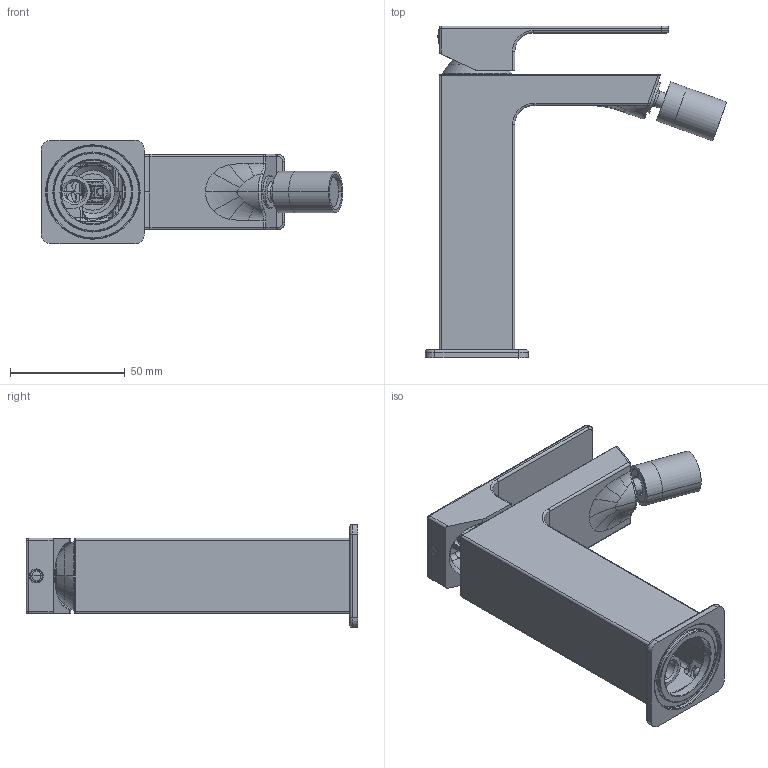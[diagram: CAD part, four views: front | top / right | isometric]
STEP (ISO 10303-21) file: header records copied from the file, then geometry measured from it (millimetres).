
FILE_DESCRIPTION((''),'2;1');
FILE_NAME('DIS_3D_F008WU_ASM','2022-03-30T15:53:04',('Luca'),(''),'CREO PARAMETRIC BY PTC INC, 2020281','CREO PARAMETRIC BY PTC INC, 2020281','');
FILE_SCHEMA(('AUTOMOTIVE_DESIGN { 1 0 10303 214 1 1 1 1 }'));
Products named in the file (11): LABEL-1921; LABEL-5679; LABEL-10408; LABEL-12613; LABEL-14613; LABEL-15175; LABEL-15965; LABEL-17037; LABEL-47210; TOP_ASM; DIS_3D_F008WU_ASM
Assembly tree (10 placements, depth 3):
  DIS_3D_F008WU_ASM
    TOP_ASM
      LABEL-1921
      LABEL-5679
      LABEL-10408
      LABEL-12613
      LABEL-14613
      LABEL-15175
      LABEL-15965
      LABEL-17037
      LABEL-47210
Bounding box: 131.42 x 144.67 x 45 mm (x, y, z)
Volume: 97051.9 mm3; surface area: 61965.1 mm2
Topology: 8 solids, 9 shells, 676 faces, 2221 edges, 1573 vertices
Faces by surface type: cylinder 256, plane 171, bspline 77, cone 68, torus 63, sphere 41
Entity records: 50538 total; most frequent: CARTESIAN_POINT 25030, ORIENTED_EDGE 4399, DIRECTION 4227, EDGE_CURVE 2204, AXIS2_PLACEMENT_3D 1808, VERTEX_POINT 1573, CIRCLE 1105, PRESENTATION_STYLE_ASSIGNMENT 1099
